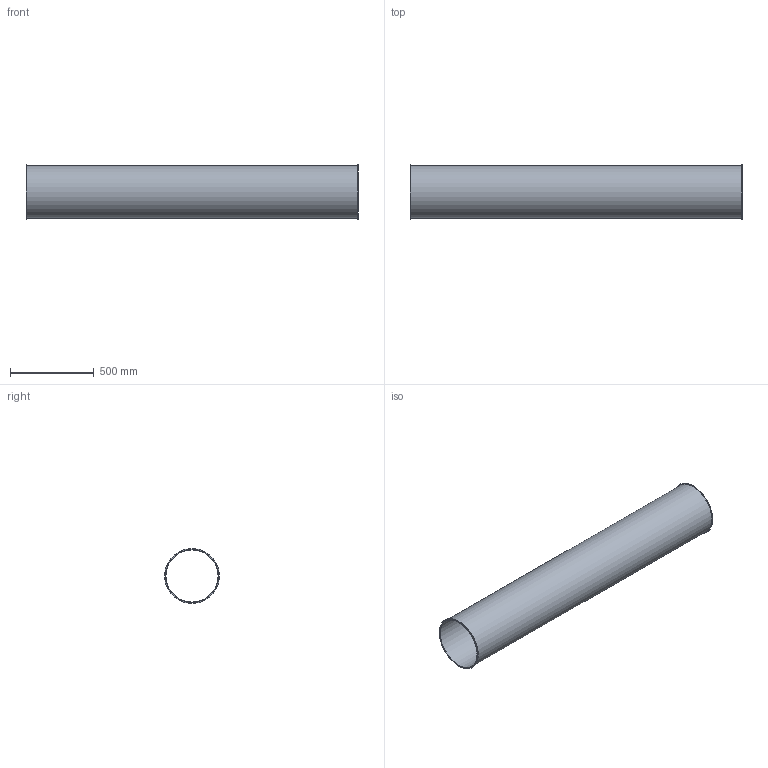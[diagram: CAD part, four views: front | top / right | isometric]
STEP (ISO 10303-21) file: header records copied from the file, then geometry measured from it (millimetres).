
FILE_DESCRIPTION((''),'2;1');
FILE_NAME('U:\Wolfgang\Marcel-3D\fertig\Kapitel 1\3121001.stp','2010-05-31T11:40:16',('TK2'),(''),'Autodesk Inventor 2010','Autodesk Inventor 2010','');
FILE_SCHEMA(('AUTOMOTIVE_DESIGN { 1 0 10303 214 1 1 1 1 }'));
Length unit declared in the file: millimetre
Products named in the file (1): 3121001
Bounding box: 1986 x 328 x 328 mm (x, y, z)
Volume: 3942497.7 mm3; surface area: 3946594.4 mm2
Topology: 1 solids, 1 shells, 8 faces, 12 edges, 8 vertices
Faces by surface type: cylinder 4, plane 4
Full cylindrical faces by diameter (mm): 312 x1, 316 x1, 328 x2
Entity records: 194 total; most frequent: DIRECTION 34, CARTESIAN_POINT 25, AXIS2_PLACEMENT_3D 17, ORIENTED_EDGE 16, EDGE_LOOP 16, VERTEX_POINT 8, CIRCLE 8, EDGE_CURVE 8
